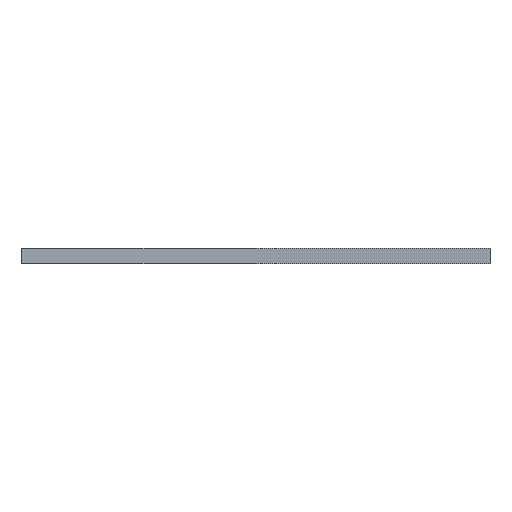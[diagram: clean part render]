
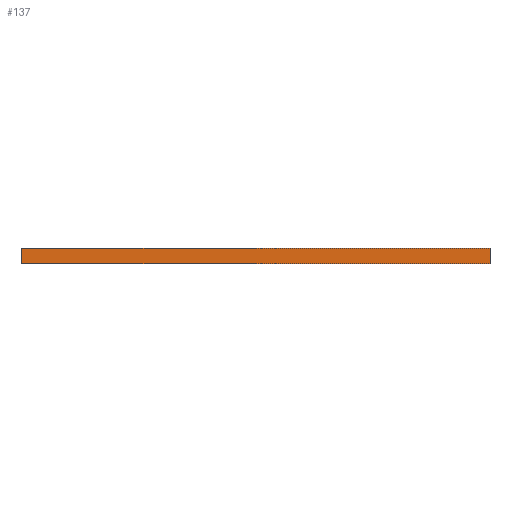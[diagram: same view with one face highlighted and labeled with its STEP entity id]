
A CAD part, front view. The second image highlights one B-rep face of the part: STEP entity #137.
In plain terms, the highlighted planar face has unit normal (0, -1, 0).
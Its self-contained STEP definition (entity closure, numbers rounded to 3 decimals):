
#21 = EDGE_CURVE('',#22,#24,#26,.T.);
#22 = VERTEX_POINT('',#23);
#23 = CARTESIAN_POINT('',(-45.,168.,32.));
#24 = VERTEX_POINT('',#25);
#25 = CARTESIAN_POINT('',(-45.,168.,35.));
#26 = SURFACE_CURVE('',#27,(#31,#43),.PCURVE_S1.);
#27 = LINE('',#28,#29);
#28 = CARTESIAN_POINT('',(-45.,168.,32.));
#29 = VECTOR('',#30,1.);
#30 = DIRECTION('',(0.,0.,1.));
#31 = PCURVE('',#32,#37);
#32 = PLANE('',#33);
#33 = AXIS2_PLACEMENT_3D('',#34,#35,#36);
#34 = CARTESIAN_POINT('',(-45.,168.,32.));
#35 = DIRECTION('',(1.,0.,-0.));
#36 = DIRECTION('',(0.,0.,1.));
#37 = DEFINITIONAL_REPRESENTATION('',(#38),#42);
#38 = LINE('',#39,#40);
#39 = CARTESIAN_POINT('',(0.,0.));
#40 = VECTOR('',#41,1.);
#41 = DIRECTION('',(1.,0.));
#42 = ( GEOMETRIC_REPRESENTATION_CONTEXT(2) 
PARAMETRIC_REPRESENTATION_CONTEXT() REPRESENTATION_CONTEXT('2D SPACE',''
  ) );
#43 = PCURVE('',#44,#49);
#44 = PLANE('',#45);
#45 = AXIS2_PLACEMENT_3D('',#46,#47,#48);
#46 = CARTESIAN_POINT('',(-45.,168.,32.));
#47 = DIRECTION('',(-0.,1.,0.));
#48 = DIRECTION('',(0.,0.,1.));
#49 = DEFINITIONAL_REPRESENTATION('',(#50),#54);
#50 = LINE('',#51,#52);
#51 = CARTESIAN_POINT('',(0.,0.));
#52 = VECTOR('',#53,1.);
#53 = DIRECTION('',(1.,0.));
#54 = ( GEOMETRIC_REPRESENTATION_CONTEXT(2) 
PARAMETRIC_REPRESENTATION_CONTEXT() REPRESENTATION_CONTEXT('2D SPACE',''
  ) );
#72 = PLANE('',#73);
#73 = AXIS2_PLACEMENT_3D('',#74,#75,#76);
#74 = CARTESIAN_POINT('',(-45.,168.,32.));
#75 = DIRECTION('',(0.,0.,1.));
#76 = DIRECTION('',(1.,0.,-0.));
#126 = PLANE('',#127);
#127 = AXIS2_PLACEMENT_3D('',#128,#129,#130);
#128 = CARTESIAN_POINT('',(-45.,168.,35.));
#129 = DIRECTION('',(0.,0.,1.));
#130 = DIRECTION('',(1.,0.,-0.));
#137 = ADVANCED_FACE('',(#138),#44,.F.);
#138 = FACE_BOUND('',#139,.F.);
#139 = EDGE_LOOP('',(#140,#163,#164,#187));
#140 = ORIENTED_EDGE('',*,*,#141,.F.);
#141 = EDGE_CURVE('',#22,#142,#144,.T.);
#142 = VERTEX_POINT('',#143);
#143 = CARTESIAN_POINT('',(45.,168.,32.));
#144 = SURFACE_CURVE('',#145,(#149,#156),.PCURVE_S1.);
#145 = LINE('',#146,#147);
#146 = CARTESIAN_POINT('',(-45.,168.,32.));
#147 = VECTOR('',#148,1.);
#148 = DIRECTION('',(1.,0.,-0.));
#149 = PCURVE('',#44,#150);
#150 = DEFINITIONAL_REPRESENTATION('',(#151),#155);
#151 = LINE('',#152,#153);
#152 = CARTESIAN_POINT('',(0.,0.));
#153 = VECTOR('',#154,1.);
#154 = DIRECTION('',(0.,1.));
#155 = ( GEOMETRIC_REPRESENTATION_CONTEXT(2) 
PARAMETRIC_REPRESENTATION_CONTEXT() REPRESENTATION_CONTEXT('2D SPACE',''
  ) );
#156 = PCURVE('',#72,#157);
#157 = DEFINITIONAL_REPRESENTATION('',(#158),#162);
#158 = LINE('',#159,#160);
#159 = CARTESIAN_POINT('',(0.,0.));
#160 = VECTOR('',#161,1.);
#161 = DIRECTION('',(1.,0.));
#162 = ( GEOMETRIC_REPRESENTATION_CONTEXT(2) 
PARAMETRIC_REPRESENTATION_CONTEXT() REPRESENTATION_CONTEXT('2D SPACE',''
  ) );
#163 = ORIENTED_EDGE('',*,*,#21,.T.);
#164 = ORIENTED_EDGE('',*,*,#165,.T.);
#165 = EDGE_CURVE('',#24,#166,#168,.T.);
#166 = VERTEX_POINT('',#167);
#167 = CARTESIAN_POINT('',(45.,168.,35.));
#168 = SURFACE_CURVE('',#169,(#173,#180),.PCURVE_S1.);
#169 = LINE('',#170,#171);
#170 = CARTESIAN_POINT('',(-45.,168.,35.));
#171 = VECTOR('',#172,1.);
#172 = DIRECTION('',(1.,0.,-0.));
#173 = PCURVE('',#44,#174);
#174 = DEFINITIONAL_REPRESENTATION('',(#175),#179);
#175 = LINE('',#176,#177);
#176 = CARTESIAN_POINT('',(3.,0.));
#177 = VECTOR('',#178,1.);
#178 = DIRECTION('',(0.,1.));
#179 = ( GEOMETRIC_REPRESENTATION_CONTEXT(2) 
PARAMETRIC_REPRESENTATION_CONTEXT() REPRESENTATION_CONTEXT('2D SPACE',''
  ) );
#180 = PCURVE('',#126,#181);
#181 = DEFINITIONAL_REPRESENTATION('',(#182),#186);
#182 = LINE('',#183,#184);
#183 = CARTESIAN_POINT('',(0.,0.));
#184 = VECTOR('',#185,1.);
#185 = DIRECTION('',(1.,0.));
#186 = ( GEOMETRIC_REPRESENTATION_CONTEXT(2) 
PARAMETRIC_REPRESENTATION_CONTEXT() REPRESENTATION_CONTEXT('2D SPACE',''
  ) );
#187 = ORIENTED_EDGE('',*,*,#188,.F.);
#188 = EDGE_CURVE('',#142,#166,#189,.T.);
#189 = SURFACE_CURVE('',#190,(#194,#201),.PCURVE_S1.);
#190 = LINE('',#191,#192);
#191 = CARTESIAN_POINT('',(45.,168.,32.));
#192 = VECTOR('',#193,1.);
#193 = DIRECTION('',(0.,0.,1.));
#194 = PCURVE('',#44,#195);
#195 = DEFINITIONAL_REPRESENTATION('',(#196),#200);
#196 = LINE('',#197,#198);
#197 = CARTESIAN_POINT('',(0.,90.));
#198 = VECTOR('',#199,1.);
#199 = DIRECTION('',(1.,0.));
#200 = ( GEOMETRIC_REPRESENTATION_CONTEXT(2) 
PARAMETRIC_REPRESENTATION_CONTEXT() REPRESENTATION_CONTEXT('2D SPACE',''
  ) );
#201 = PCURVE('',#202,#207);
#202 = PLANE('',#203);
#203 = AXIS2_PLACEMENT_3D('',#204,#205,#206);
#204 = CARTESIAN_POINT('',(45.,168.,32.));
#205 = DIRECTION('',(1.,0.,-0.));
#206 = DIRECTION('',(0.,0.,1.));
#207 = DEFINITIONAL_REPRESENTATION('',(#208),#212);
#208 = LINE('',#209,#210);
#209 = CARTESIAN_POINT('',(0.,0.));
#210 = VECTOR('',#211,1.);
#211 = DIRECTION('',(1.,0.));
#212 = ( GEOMETRIC_REPRESENTATION_CONTEXT(2) 
PARAMETRIC_REPRESENTATION_CONTEXT() REPRESENTATION_CONTEXT('2D SPACE',''
  ) );
